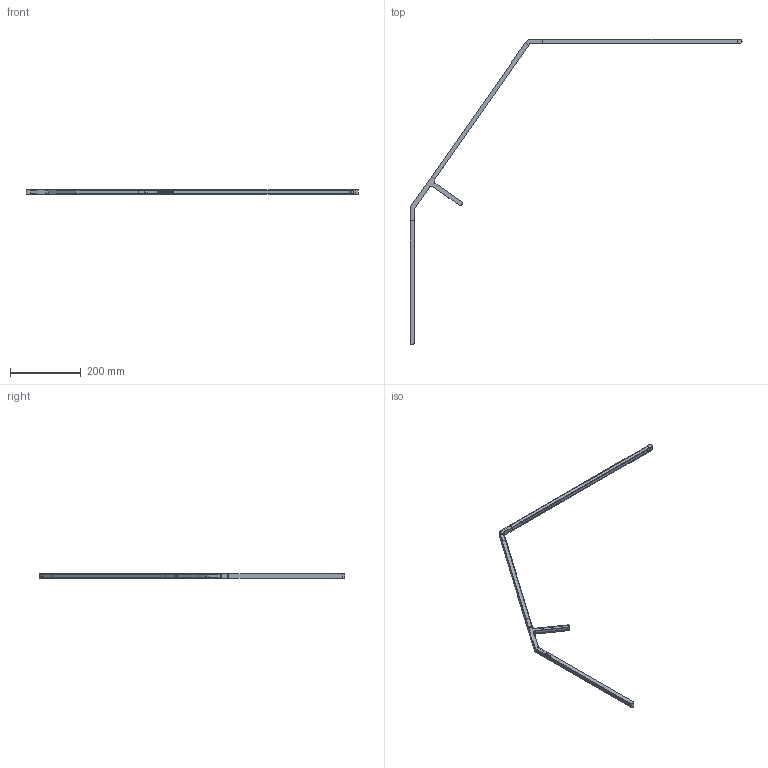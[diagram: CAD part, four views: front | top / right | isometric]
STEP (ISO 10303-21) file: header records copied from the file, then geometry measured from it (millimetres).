
FILE_DESCRIPTION (( 'STEP AP203' ), '1' );
FILE_NAME ('800BIRLNN111_BIRD TAVOLO.STEP', '2019-03-08T17:51:32', ( 'User' ), ( 'Hewlett-Packard Company' ), 'SwSTEP 2.0', 'SolidWorks 2016', '' );
FILE_SCHEMA (( 'CONFIG_CONTROL_DESIGN' ));
Length unit declared in the file: millimetre
Products named in the file (8): 010BIR700400_STELO INTERMEDIO_400; 049BIR700300_TESTA ASS_0; 800BIRLNN111_BIRD TAVOLO; L; T; 010BIR700500_STELO TESTA FRESATO_500; 010BIR700200_CONTRAPPESO FERRO GR; 010BIR700300_TAPPO CHIUSURA GR
Assembly tree (7 placements, depth 3):
  800BIRLNN111_BIRD TAVOLO
    010BIR700200_CONTRAPPESO FERRO GR
    T
    010BIR700400_STELO INTERMEDIO_400
    L
    049BIR700300_TESTA ASS_0
      010BIR700500_STELO TESTA FRESATO_500
      010BIR700300_TAPPO CHIUSURA GR
Bounding box: 936.93 x 862.89 x 12 mm (x, y, z)
Volume: 127792.4 mm3; surface area: 140766.4 mm2
Topology: 7 solids, 7 shells, 141 faces, 353 edges, 233 vertices
Faces by surface type: plane 109, cylinder 28, cone 4
Entity records: 5081 total; most frequent: CARTESIAN_POINT 792, DIRECTION 707, ORIENTED_EDGE 702, EDGE_CURVE 351, LINE 291, VECTOR 291, VERTEX_POINT 233, AXIS2_PLACEMENT_3D 208
